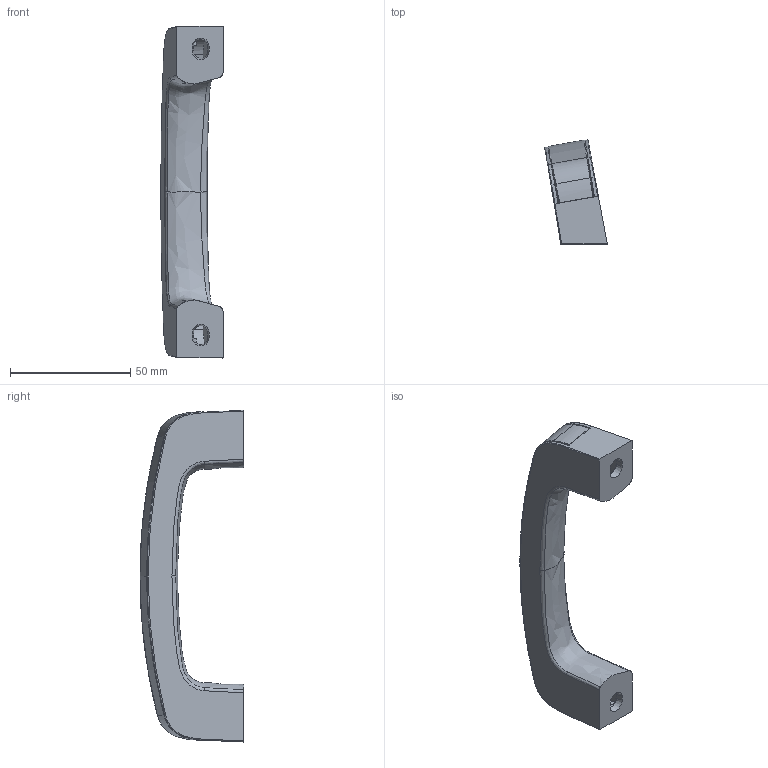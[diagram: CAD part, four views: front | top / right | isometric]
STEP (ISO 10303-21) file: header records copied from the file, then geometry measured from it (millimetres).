
FILE_DESCRIPTION (( 'STEP AP203' ), '1' );
FILE_NAME ('013.506.009.STEP', '2021-03-24T07:44:39', ( '' ), ( '' ), 'SwSTEP 2.0', 'SolidWorks 2018', '' );
FILE_SCHEMA (( 'CONFIG_CONTROL_DESIGN' ));
Length unit declared in the file: millimetre
Products named in the file (3): 013.506.010A; 013.506.009
Assembly tree (2 placements, depth 2):
  013.506.009
    013.506.009
    013.506.010A
Bounding box: 25.93 x 43.19 x 138 mm (x, y, z)
Volume: 29064.8 mm3; surface area: 25565.9 mm2
Topology: 2 solids, 2 shells, 276 faces, 747 edges, 479 vertices
Faces by surface type: bspline 101, plane 95, cylinder 52, cone 26, torus 2
Entity records: 19359 total; most frequent: CARTESIAN_POINT 13294, ORIENTED_EDGE 1494, DIRECTION 810, EDGE_CURVE 747, VERTEX_POINT 479, LINE 292, VECTOR 292, EDGE_LOOP 284
